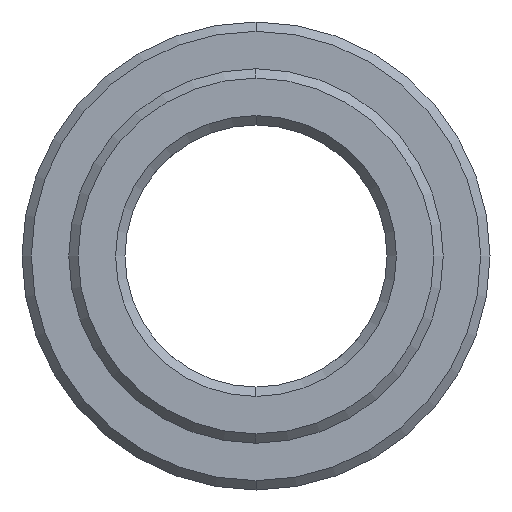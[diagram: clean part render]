
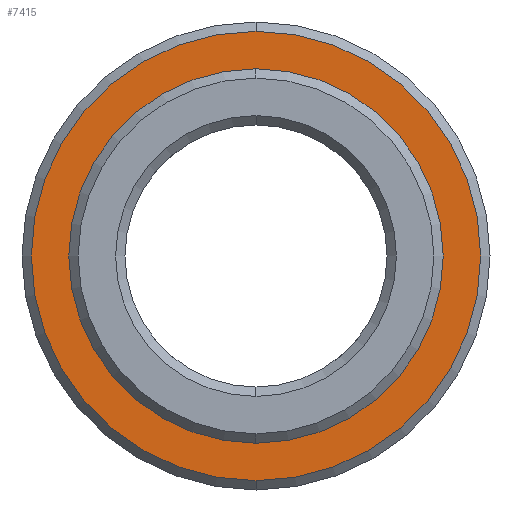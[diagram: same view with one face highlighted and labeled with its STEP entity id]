
A CAD part, left-side view. The second image highlights one B-rep face of the part: STEP entity #7415.
In plain terms, the highlighted planar face has unit normal (-1, 0, 0).
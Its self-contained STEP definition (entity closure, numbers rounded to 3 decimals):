
#4620=CARTESIAN_POINT('',(0.,0.,0.));
#4621=DIRECTION('',(1.,0.,0.));
#4622=DIRECTION('',(0.,0.,1.));
#4623=AXIS2_PLACEMENT_3D('',#4620,#4621,#4622);
#4625=CARTESIAN_POINT('',(0.,0.,0.));
#4626=DIRECTION('',(-1.,0.,0.));
#4627=DIRECTION('',(0.,0.,1.));
#4628=AXIS2_PLACEMENT_3D('',#4625,#4626,#4627);
#4630=CARTESIAN_POINT('',(0.,0.,0.));
#4631=DIRECTION('',(1.,0.,0.));
#4632=DIRECTION('',(0.,0.,-1.));
#4633=AXIS2_PLACEMENT_3D('',#4630,#4631,#4632);
#4635=CARTESIAN_POINT('',(0.,0.,0.));
#4636=DIRECTION('',(1.,0.,0.));
#4637=DIRECTION('',(0.,0.,1.));
#4638=AXIS2_PLACEMENT_3D('',#4635,#4636,#4637);
#4890=CARTESIAN_POINT('',(0.,0.,-12.));
#4891=CARTESIAN_POINT('',(0.,0.,12.));
#4892=VERTEX_POINT('',#4890);
#4893=VERTEX_POINT('',#4891);
#5034=CARTESIAN_POINT('',(0.,0.,10.));
#5035=CARTESIAN_POINT('',(0.,0.,-10.));
#5036=VERTEX_POINT('',#5034);
#5037=VERTEX_POINT('',#5035);
#7400=CARTESIAN_POINT('',(0.,0.,0.));
#7401=DIRECTION('',(1.,0.,0.));
#7402=DIRECTION('',(0.,0.,1.));
#7403=AXIS2_PLACEMENT_3D('',#7400,#7401,#7402);
#7404=PLANE('',#7403);
#7405=ORIENTED_EDGE('',*,*,#7380,.T.);
#7406=ORIENTED_EDGE('',*,*,#7394,.T.);
#7407=EDGE_LOOP('',(#7405,#7406));
#7408=FACE_OUTER_BOUND('',#7407,.F.);
#7410=ORIENTED_EDGE('',*,*,#7409,.F.);
#7412=ORIENTED_EDGE('',*,*,#7411,.T.);
#7413=EDGE_LOOP('',(#7410,#7412));
#7414=FACE_BOUND('',#7413,.F.);
#7415=ADVANCED_FACE('',(#7408,#7414),#7404,.F.);
#4624=CIRCLE('',#4623,10.);
#4629=CIRCLE('',#4628,10.);
#4634=CIRCLE('',#4633,12.);
#4639=CIRCLE('',#4638,12.);
#7380=EDGE_CURVE('',#4892,#4893,#4634,.T.);
#7394=EDGE_CURVE('',#4893,#4892,#4639,.T.);
#7409=EDGE_CURVE('',#5036,#5037,#4624,.T.);
#7411=EDGE_CURVE('',#5036,#5037,#4629,.T.);
